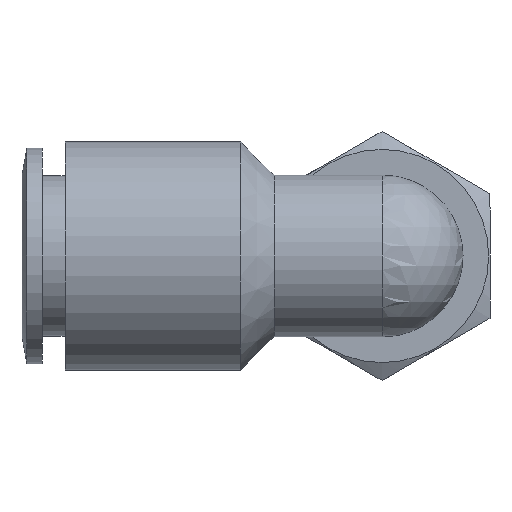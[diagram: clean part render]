
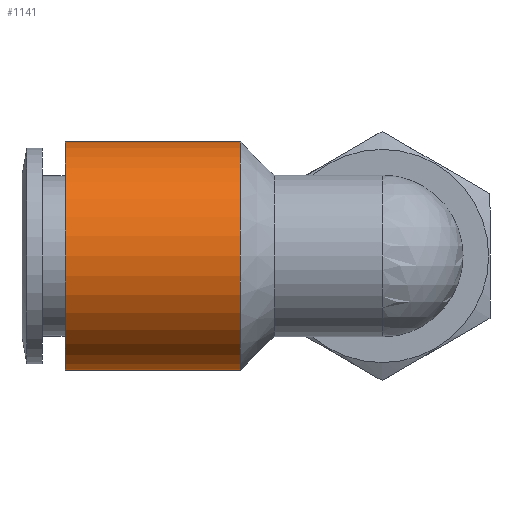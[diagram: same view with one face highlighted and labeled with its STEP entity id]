
A CAD part, left-side view. The second image highlights one B-rep face of the part: STEP entity #1141.
In plain terms, the highlighted cylindrical face has radius 8.5 mm (diameter 17 mm), a full revolution.
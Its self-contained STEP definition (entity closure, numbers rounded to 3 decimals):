
#1107=CARTESIAN_POINT('',(-8.5,10.5,0.0));
#1108=VERTEX_POINT('',#1107);
#1109=CARTESIAN_POINT('',(0.0,10.5,0.0));
#1110=DIRECTION('',(0.0,1.0,0.0));
#1111=DIRECTION('',(-1.0,0.0,0.0));
#1112=AXIS2_PLACEMENT_3D('',#1109,#1110,#1111);
#1113=CIRCLE('',#1112,8.5);
#1114=EDGE_CURVE('',#1108,#1108,#1113,.T.);
#1122=CARTESIAN_POINT('',(0.0,17.0,0.0));
#1123=DIRECTION('',(0.0,1.0,0.0));
#1124=DIRECTION('',(-1.0,0.0,0.0));
#1125=AXIS2_PLACEMENT_3D('',#1122,#1123,#1124);
#1126=CYLINDRICAL_SURFACE('',#1125,8.5);
#1127=CARTESIAN_POINT('',(-8.5,23.5,0.0));
#1128=VERTEX_POINT('',#1127);
#1129=CARTESIAN_POINT('',(0.0,23.5,0.0));
#1130=DIRECTION('',(0.0,1.0,0.0));
#1131=DIRECTION('',(-1.0,0.0,0.0));
#1132=AXIS2_PLACEMENT_3D('',#1129,#1130,#1131);
#1133=CIRCLE('',#1132,8.5);
#1134=EDGE_CURVE('',#1128,#1128,#1133,.T.);
#1135=ORIENTED_EDGE('',*,*,#1134,.F.);
#1136=EDGE_LOOP('',(#1135));
#1137=FACE_OUTER_BOUND('',#1136,.T.);
#1138=ORIENTED_EDGE('',*,*,#1114,.T.);
#1139=EDGE_LOOP('',(#1138));
#1140=FACE_BOUND('',#1139,.T.);
#1141=ADVANCED_FACE('',(#1137,#1140),#1126,.T.);
